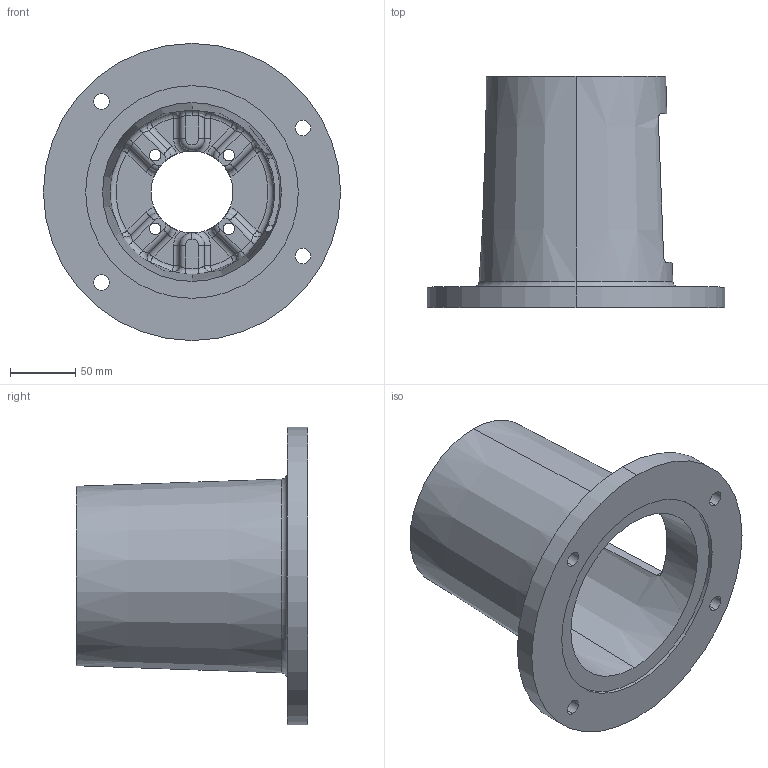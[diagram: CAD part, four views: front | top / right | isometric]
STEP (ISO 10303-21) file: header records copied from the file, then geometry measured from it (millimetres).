
FILE_DESCRIPTION (( 'STEP AP203' ), '1' );
FILE_NAME ('E7007063MS.STEP', '2014-11-04T13:25:19', ( '' ), ( '' ), 'SwSTEP 2.0', 'SolidWorks 2014', '' );
FILE_SCHEMA (( 'CONFIG_CONTROL_DESIGN' ));
Length unit declared in the file: inch
Products named in the file (1): E7007063MS
Bounding box: 228.6 x 177.8 x 228.6 mm (x, y, z)
Volume: 890604.2 mm3; surface area: 220062.1 mm2
Topology: 1 solids, 1 shells, 172 faces, 426 edges, 246 vertices
Faces by surface type: cylinder 61, torus 39, plane 32, bspline 24, sphere 12, cone 4
Entity records: 6978 total; most frequent: CARTESIAN_POINT 2945, DIRECTION 859, ORIENTED_EDGE 828, EDGE_CURVE 414, AXIS2_PLACEMENT_3D 378, VERTEX_POINT 246, CIRCLE 229, EDGE_LOOP 194
